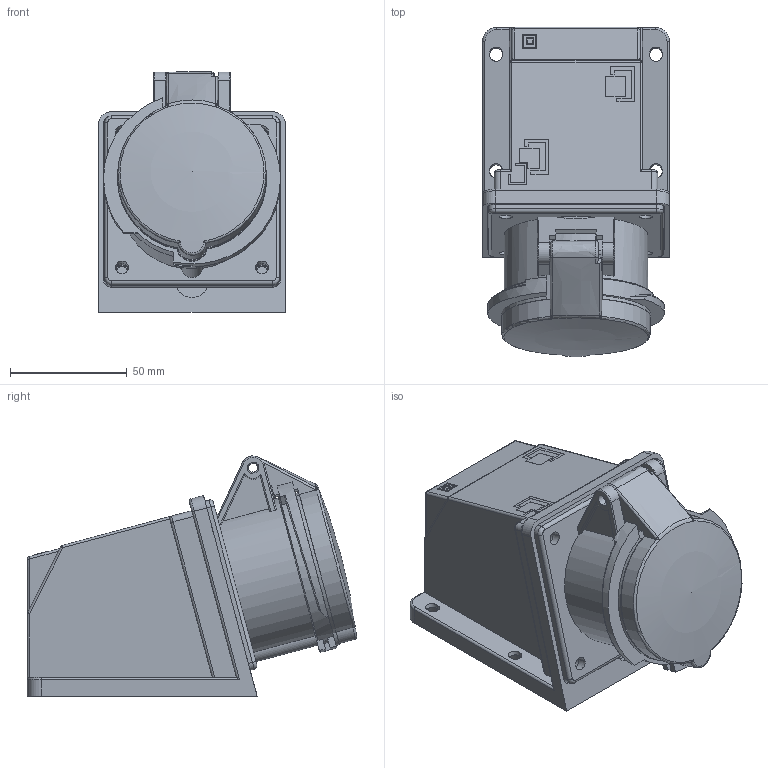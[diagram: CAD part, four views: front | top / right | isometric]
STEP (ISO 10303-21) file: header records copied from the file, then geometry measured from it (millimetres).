
FILE_DESCRIPTION(('FreeCAD Model'),'2;1');
FILE_NAME('Open CASCADE Shape Model','2026-02-04T09:11:25',(''),(''), 'Open CASCADE STEP processor 7.8','FreeCAD','Unknown');
FILE_SCHEMA(('AUTOMOTIVE_DESIGN { 1 0 10303 214 1 1 1 1 }'));
Length unit declared in the file: millimetre
Products named in the file (6): TL3S16453; Tampa; Base interna; Corpo tomada; Terminais; Estrutura base
Assembly tree (5 placements, depth 2):
  TL3S16453
    Tampa
    Base interna
    Corpo tomada
    Terminais
    Estrutura base
Bounding box: 80 x 141.17 x 102.98 mm (x, y, z)
Volume: 492877.8 mm3; surface area: 110138.7 mm2
Topology: 5 solids, 13 shells, 1156 faces, 3038 edges, 1972 vertices
Faces by surface type: plane 675, cylinder 320, torus 75, bspline 35, sphere 31, cone 20
Full cylindrical faces by diameter (mm): 7.5 x1
Entity records: 39778 total; most frequent: CARTESIAN_POINT 10681, ORIENTED_EDGE 6074, DIRECTION 6036, EDGE_CURVE 3037, AXIS2_PLACEMENT_3D 2067, VERTEX_POINT 1972, LINE 1902, VECTOR 1902
